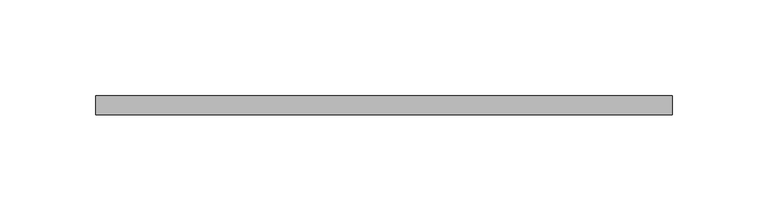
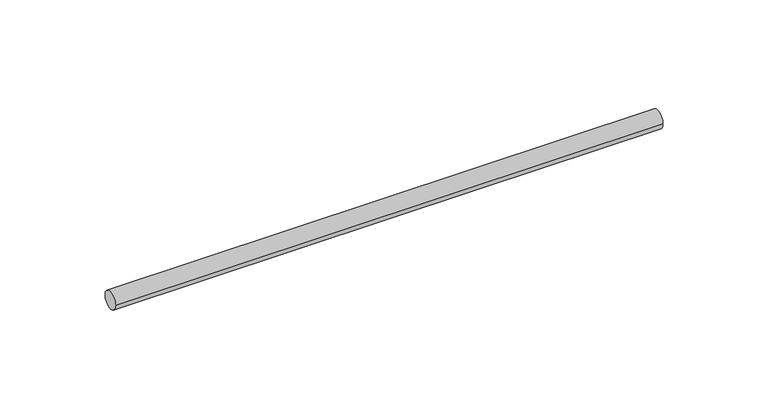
"""IFC4 building model written with IfcOpenShell, lengths in millimetres: valve geometry, Superfix Threaded Rod (used for clamps) : Threaded Rod  Extra  - 1000 mm (used for clamps)."""

from ifc_helpers import new_model, si_unit, point, frame, origin, origin_2d, place, context, project, spatial, circle_curve, trimmed, segment, composite_curve, outline, extrude, source, transform, mapped, element, save


def valve_e633c2be(model_context):
    return source(origin(), model_context, "Body", "SweptSolid", [
        extrude(outline(composite_curve([segment(trimmed(circle_curve(origin_2d(), 5.0), [point((-5.0, 0.0))], [point((5.0, 0.0))], False, "CARTESIAN"), True, "CONTINUOUS"), segment(trimmed(circle_curve(origin_2d(), 5.0), [point((5.0, 0.0))], [point((-5.0, 0.0))], False, "CARTESIAN"), True, "CONTINUOUS")], self_intersect=False)), frame((-10.0, 0.0, 0.0), z_axis=(1.0, 0.0, 0.0), x_axis=(0.0, 1.0, 0.0)), (0.0, 0.0, 1.0), 301.0),
    ])


if __name__ == "__main__":
    model = new_model("IFC4")
    model_context = context("Model", 3, world=origin())
    ifc_project = project(units=[si_unit("LENGTHUNIT", "METRE", prefix="MILLI")], contexts=[model_context])
    site = spatial("IfcSite", under=ifc_project)
    building = spatial("IfcBuilding", under=site)
    placement = place(None, origin())
    valve_shape = valve_e633c2be(model_context)
    element("IfcValve", 1, ObjectType="Superfix Threaded Rod (used for clamps) : Threaded Rod  Extra  - 1000 mm (used for clamps)", at=placement, inside=building, context=model_context, shape_type="MappedRepresentation", body=[
        mapped(valve_shape, transform((0.0, 0.0, 0.0), x_axis=(1.0, 0.0, 0.0), y_axis=(0.0, 1.0, 0.0), z_axis=(0.0, 0.0, 1.0))),
    ])
    save(model, "model.ifc")
